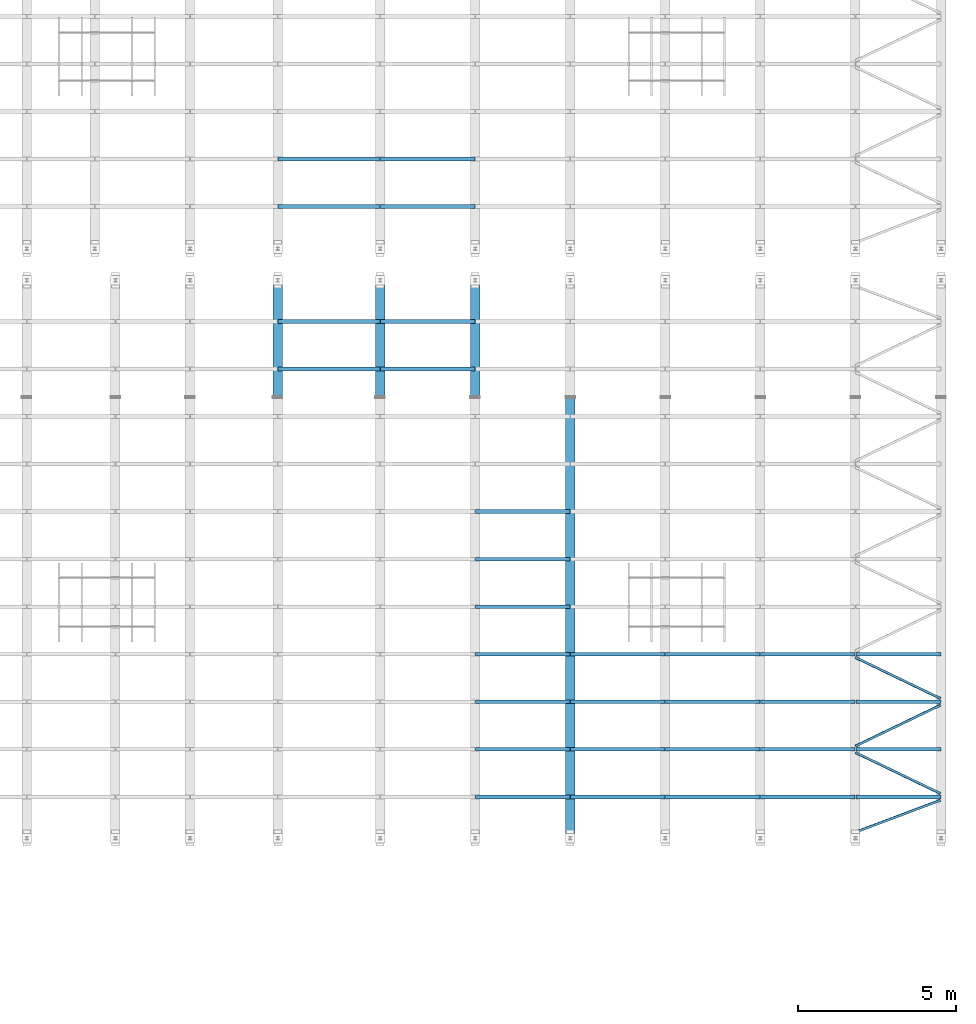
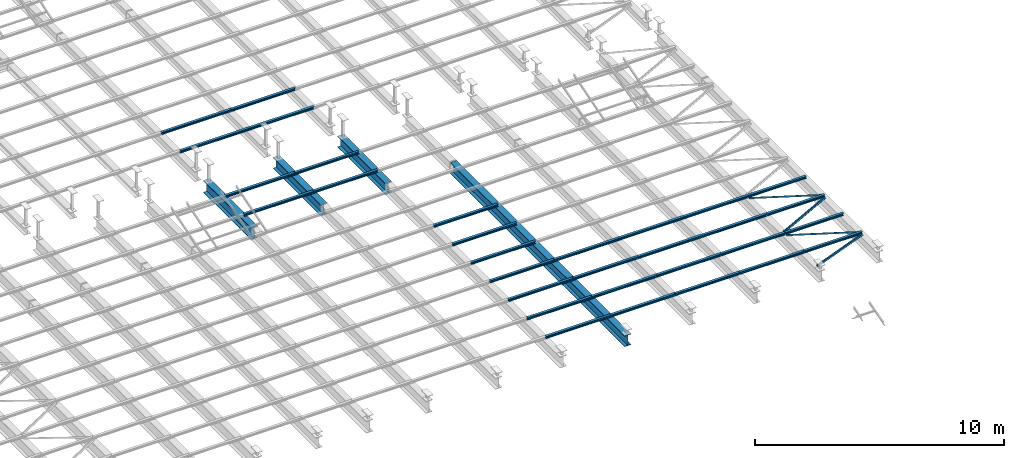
# One storey, part 75 of 139: 39 beams.
"""IFC2X3 building model written with IfcOpenShell, lengths in metres."""

from ifc_helpers import new_model, entity, si_unit, converted_unit, derived_unit, frame, origin, place, context, subcontext, project, spatial, polyline, outline, extrude, material, element, save


model = new_model("IFC2X3")

# Units and contexts
model_context = context("Model", 3, precision=1e-05, world=origin())
body_context = subcontext(model_context, "Body", "Model", "MODEL_VIEW")
ifc_project = project(units=[si_unit("LENGTHUNIT", "METRE"), si_unit("AREAUNIT", "SQUARE_METRE"), si_unit("VOLUMEUNIT", "CUBIC_METRE"), si_unit("MASSUNIT", "GRAM", prefix="KILO"), converted_unit("PLANEANGLEUNIT", "DEGREE", entity("IfcPlaneAngleMeasure", 0.0174532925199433), si_unit("PLANEANGLEUNIT", "RADIAN"), dimensions=[0, 0, 0, 0, 0, 0, 0]), derived_unit("THERMALTRANSMITTANCEUNIT", [(si_unit("POWERUNIT", "WATT"), 1), (si_unit("THERMODYNAMICTEMPERATUREUNIT", "KELVIN"), -1), (si_unit("LENGTHUNIT", "METRE"), -2)]), derived_unit("VOLUMETRICFLOWRATEUNIT", [(si_unit("LENGTHUNIT", "METRE"), 3), (converted_unit("TIMEUNIT", "hour", entity("IfcTimeMeasure", 3600.0), si_unit("TIMEUNIT", "SECOND"), dimensions=[0, 0, 1, 0, 0, 0, 0]), -1), (si_unit("LENGTHUNIT", "METRE"), -1)])], contexts=[model_context])

# Site, building, storey
site_placement = place(None, origin())
site = spatial("IfcSite", under=ifc_project, at=site_placement, Name="TWP_Speiseverteilzentrum SBW VZ II", CompositionType="ELEMENT")
building_placement = place(site_placement, origin())
building = spatial("IfcBuilding", under=site, at=building_placement, Name="Speiseverteilzentrum SBW VZ II", CompositionType="ELEMENT")
storey_placement = place(building_placement, frame((0.0, 0.0, 7.1307)))
storey = spatial("IfcBuildingStorey", under=building, at=storey_placement, Name="Wartung_FFB", CompositionType="ELEMENT", Elevation=7.1307)

# Beams
ifc_material_1 = material(Name="S235")
beam_1_placement = place(storey_placement, frame((103.050000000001, 70.0522526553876, -0.46), z_axis=(0.0, 0.0, 1.0), x_axis=(-1.0, 0.0, 0.0)))
element("IfcBeam", 1, at=beam_1_placement, inside=storey, material=ifc_material_1, Name="Stahlträger", context=body_context, shape_type="SweptSolid", body=[
    extrude(outline(polyline([(-0.15, 0.27), (-0.15, 0.246), (-0.0062499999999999, 0.246), (-0.00624999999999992, -0.246), (-0.15, -0.246), (-0.15, -0.27), (0.15, -0.27), (0.15, -0.246), (0.00625000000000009, -0.246), (0.00625000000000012, 0.246), (0.15, 0.246), (0.15, 0.27), (-0.15, 0.27)])), frame((0.0, 0.0, 0.0), z_axis=(0.0, 1.0, 0.0), x_axis=(-1.0, 0.0, 0.0)), (0.0, 0.0, 1.0), 3.81699999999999),
])
ifc_material_2 = material(Name="S235")
beam_2_placement = place(storey_placement, frame((106.050000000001, 70.0522526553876, -0.46), z_axis=(0.0, 0.0, 1.0), x_axis=(-1.0, 0.0, 0.0)))
element("IfcBeam", 2, at=beam_2_placement, inside=storey, material=ifc_material_2, Name="Stahlträger", context=body_context, shape_type="SweptSolid", body=[
    extrude(outline(polyline([(-0.15, 0.27), (-0.15, 0.246), (-0.0062499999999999, 0.246), (-0.00624999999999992, -0.246), (-0.15, -0.246), (-0.15, -0.27), (0.15, -0.27), (0.15, -0.246), (0.00625000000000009, -0.246), (0.00625000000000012, 0.246), (0.15, 0.246), (0.15, 0.27), (-0.15, 0.27)])), frame((0.0, 0.0, 0.0), z_axis=(0.0, 1.0, 0.0), x_axis=(-1.0, 0.0, 0.0)), (0.0, 0.0, 1.0), 3.81699999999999),
])
ifc_material_3 = material(Name="S235")
beam_3_placement = place(storey_placement, frame((99.8200000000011, 70.0522526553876, -0.485), z_axis=(0.0, 0.0, 1.0), x_axis=(-1.0, 0.0, 0.0)))
element("IfcBeam", 3, at=beam_3_placement, inside=storey, material=ifc_material_3, Name="Stahlträger", context=body_context, shape_type="SweptSolid", body=[
    extrude(outline(polyline([(-0.15, 0.295), (-0.15, 0.27), (-0.0065, 0.27), (-0.00650000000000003, -0.27), (-0.15, -0.27), (-0.15, -0.295), (0.15, -0.295), (0.15, -0.27), (0.00649999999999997, -0.27), (0.00650000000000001, 0.27), (0.15, 0.27), (0.15, 0.295), (-0.15, 0.295)])), frame((0.0, 0.0, 0.0), z_axis=(0.0, 1.0, 0.0), x_axis=(-1.0, 0.0, 0.0)), (0.0, 0.0, 1.0), 3.81699999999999),
])
ifc_material_4 = material(Name="S235")
beam_4_placement = place(storey_placement, frame((109.050000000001, 66.1852526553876, -0.46), z_axis=(0.0, 0.0, 1.0), x_axis=(-1.0, 0.0, 0.0)))
element("IfcBeam", 4, at=beam_4_placement, inside=storey, material=ifc_material_4, Name="Stahlträger", context=body_context, shape_type="SweptSolid", body=[
    extrude(outline(polyline([(-0.15, 0.27), (-0.15, 0.246), (-0.0062499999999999, 0.246), (-0.00624999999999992, -0.246), (-0.15, -0.246), (-0.15, -0.27), (0.15, -0.27), (0.15, -0.246), (0.00625000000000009, -0.246), (0.00625000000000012, 0.246), (0.15, 0.246), (0.15, 0.27), (-0.15, 0.27)])), frame((0.0, 0.0, 0.0), z_axis=(0.0, 1.0, 0.0), x_axis=(-1.0, 0.0, 0.0)), (0.0, 0.0, 1.0), 14.0352526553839),
])
ifc_material_5 = material(Name="S235")
beam_5_placement = place(storey_placement, frame((103.060000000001, 73.7261263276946, -0.133), z_axis=(0.0, 0.0, 1.0), x_axis=(0.0, -1.0, 0.0)))
element("IfcBeam", 5, at=beam_5_placement, inside=storey, material=ifc_material_5, Name="Nebenträger", context=body_context, shape_type="SweptSolid", body=[
    extrude(outline(polyline([(-0.06, 0.0570000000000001), (-0.06, 0.0490000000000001), (-0.00249999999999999, 0.0490000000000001), (-0.0025, -0.0489999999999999), (-0.06, -0.0489999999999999), (-0.06, -0.0569999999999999), (0.06, -0.0569999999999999), (0.06, -0.0489999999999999), (0.0025, -0.0489999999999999), (0.00250000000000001, 0.0490000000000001), (0.06, 0.0490000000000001), (0.06, 0.0570000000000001), (-0.06, 0.0570000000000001)])), frame((0.0, 0.0, 0.0), z_axis=(0.0, 1.0, 0.0), x_axis=(-1.0, 0.0, 0.0)), (0.0, 0.0, 1.0), 2.98),
])
ifc_material_6 = material(Name="S235")
beam_6_placement = place(storey_placement, frame((103.060000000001, 72.2261263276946, -0.133), z_axis=(0.0, 0.0, 1.0), x_axis=(0.0, -1.0, 0.0)))
element("IfcBeam", 6, at=beam_6_placement, inside=storey, material=ifc_material_6, Name="Nebenträger", context=body_context, shape_type="SweptSolid", body=[
    extrude(outline(polyline([(-0.06, 0.0570000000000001), (-0.06, 0.0490000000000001), (-0.00249999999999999, 0.0490000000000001), (-0.0025, -0.0489999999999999), (-0.06, -0.0489999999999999), (-0.06, -0.0569999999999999), (0.06, -0.0569999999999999), (0.06, -0.0489999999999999), (0.0025, -0.0489999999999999), (0.00250000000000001, 0.0490000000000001), (0.06, 0.0490000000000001), (0.06, 0.0570000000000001), (-0.06, 0.0570000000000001)])), frame((0.0, 0.0, 0.0), z_axis=(0.0, 1.0, 0.0), x_axis=(-1.0, 0.0, 0.0)), (0.0, 0.0, 1.0), 2.98),
])
ifc_material_7 = material(Name="S235")
beam_7_placement = place(storey_placement, frame((103.060000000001, 68.6011263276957, -0.133), z_axis=(0.0, 0.0, 1.0), x_axis=(0.0, -1.0, 0.0)))
element("IfcBeam", 7, at=beam_7_placement, inside=storey, material=ifc_material_7, Name="Nebenträger", context=body_context, shape_type="SweptSolid", body=[
    extrude(outline(polyline([(-0.06, 0.0570000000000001), (-0.06, 0.0490000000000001), (-0.00249999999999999, 0.0490000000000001), (-0.0025, -0.0489999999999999), (-0.06, -0.0489999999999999), (-0.06, -0.0569999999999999), (0.06, -0.0569999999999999), (0.06, -0.0489999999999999), (0.0025, -0.0489999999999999), (0.00250000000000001, 0.0490000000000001), (0.06, 0.0490000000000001), (0.06, 0.0570000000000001), (-0.06, 0.0570000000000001)])), frame((0.0, 0.0, 0.0), z_axis=(0.0, 1.0, 0.0), x_axis=(-1.0, 0.0, 0.0)), (0.0, 0.0, 1.0), 2.98),
])
ifc_material_8 = material(Name="S235")
beam_8_placement = place(storey_placement, frame((103.060000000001, 67.1011263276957, -0.133), z_axis=(0.0, 0.0, 1.0), x_axis=(0.0, -1.0, 0.0)))
element("IfcBeam", 8, at=beam_8_placement, inside=storey, material=ifc_material_8, Name="Nebenträger", context=body_context, shape_type="SweptSolid", body=[
    extrude(outline(polyline([(-0.06, 0.0570000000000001), (-0.06, 0.0490000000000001), (-0.00249999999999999, 0.0490000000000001), (-0.0025, -0.0489999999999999), (-0.06, -0.0489999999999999), (-0.06, -0.0569999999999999), (0.06, -0.0569999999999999), (0.06, -0.0489999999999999), (0.0025, -0.0489999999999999), (0.00250000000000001, 0.0490000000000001), (0.06, 0.0490000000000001), (0.06, 0.0570000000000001), (-0.06, 0.0570000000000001)])), frame((0.0, 0.0, 0.0), z_axis=(0.0, 1.0, 0.0), x_axis=(-1.0, 0.0, 0.0)), (0.0, 0.0, 1.0), 2.98),
])
ifc_material_9 = material(Name="S235")
beam_9_placement = place(storey_placement, frame((106.060000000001, 62.6011263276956, -0.133), z_axis=(0.0, 0.0, 1.0), x_axis=(0.0, -1.0, 0.0)))
element("IfcBeam", 9, at=beam_9_placement, inside=storey, material=ifc_material_9, Name="Nebenträger", context=body_context, shape_type="SweptSolid", body=[
    extrude(outline(polyline([(-0.06, 0.0570000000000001), (-0.06, 0.0490000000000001), (-0.00249999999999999, 0.0490000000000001), (-0.0025, -0.0489999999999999), (-0.06, -0.0489999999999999), (-0.06, -0.0569999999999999), (0.06, -0.0569999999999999), (0.06, -0.0489999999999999), (0.0025, -0.0489999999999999), (0.00250000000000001, 0.0490000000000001), (0.06, 0.0490000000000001), (0.06, 0.0570000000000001), (-0.06, 0.0570000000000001)])), frame((0.0, 0.0, 0.0), z_axis=(0.0, 1.0, 0.0), x_axis=(-1.0, 0.0, 0.0)), (0.0, 0.0, 1.0), 2.98),
])
ifc_material_10 = material(Name="S235")
beam_10_placement = place(storey_placement, frame((106.060000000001, 61.1011263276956, -0.133), z_axis=(0.0, 0.0, 1.0), x_axis=(0.0, -1.0, 0.0)))
element("IfcBeam", 10, at=beam_10_placement, inside=storey, material=ifc_material_10, Name="Nebenträger", context=body_context, shape_type="SweptSolid", body=[
    extrude(outline(polyline([(-0.06, 0.0570000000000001), (-0.06, 0.0490000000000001), (-0.00249999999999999, 0.0490000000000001), (-0.0025, -0.0489999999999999), (-0.06, -0.0489999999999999), (-0.06, -0.0569999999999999), (0.06, -0.0569999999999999), (0.06, -0.0489999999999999), (0.0025, -0.0489999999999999), (0.00250000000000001, 0.0490000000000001), (0.06, 0.0490000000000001), (0.06, 0.0570000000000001), (-0.06, 0.0570000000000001)])), frame((0.0, 0.0, 0.0), z_axis=(0.0, 1.0, 0.0), x_axis=(-1.0, 0.0, 0.0)), (0.0, 0.0, 1.0), 2.98),
])
ifc_material_11 = material(Name="S235")
beam_11_placement = place(storey_placement, frame((106.060000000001, 59.6011263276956, -0.133), z_axis=(0.0, 0.0, 1.0), x_axis=(0.0, -1.0, 0.0)))
element("IfcBeam", 11, at=beam_11_placement, inside=storey, material=ifc_material_11, Name="Nebenträger", context=body_context, shape_type="SweptSolid", body=[
    extrude(outline(polyline([(-0.06, 0.0570000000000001), (-0.06, 0.0490000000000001), (-0.00249999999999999, 0.0490000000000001), (-0.0025, -0.0489999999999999), (-0.06, -0.0489999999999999), (-0.06, -0.0569999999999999), (0.06, -0.0569999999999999), (0.06, -0.0489999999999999), (0.0025, -0.0489999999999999), (0.00250000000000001, 0.0490000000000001), (0.06, 0.0490000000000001), (0.06, 0.0570000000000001), (-0.06, 0.0570000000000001)])), frame((0.0, 0.0, 0.0), z_axis=(0.0, 1.0, 0.0), x_axis=(-1.0, 0.0, 0.0)), (0.0, 0.0, 1.0), 2.98),
])
ifc_material_12 = material(Name="S235")
beam_12_placement = place(storey_placement, frame((106.060000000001, 58.1011263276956, -0.133), z_axis=(0.0, 0.0, 1.0), x_axis=(0.0, -1.0, 0.0)))
element("IfcBeam", 12, at=beam_12_placement, inside=storey, material=ifc_material_12, Name="Nebenträger", context=body_context, shape_type="SweptSolid", body=[
    extrude(outline(polyline([(-0.06, 0.0570000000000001), (-0.06, 0.0490000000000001), (-0.00249999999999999, 0.0490000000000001), (-0.0025, -0.0489999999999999), (-0.06, -0.0489999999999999), (-0.06, -0.0569999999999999), (0.06, -0.0569999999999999), (0.06, -0.0489999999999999), (0.0025, -0.0489999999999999), (0.00250000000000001, 0.0490000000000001), (0.06, 0.0490000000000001), (0.06, 0.0570000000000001), (-0.06, 0.0570000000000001)])), frame((0.0, 0.0, 0.0), z_axis=(0.0, 1.0, 0.0), x_axis=(-1.0, 0.0, 0.0)), (0.0, 0.0, 1.0), 2.98),
])
ifc_material_13 = material(Name="S235")
beam_13_placement = place(storey_placement, frame((109.060000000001, 58.1011263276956, -0.133), z_axis=(0.0, 0.0, 1.0), x_axis=(0.0, -1.0, 0.0)))
element("IfcBeam", 13, at=beam_13_placement, inside=storey, material=ifc_material_13, Name="Nebenträger", context=body_context, shape_type="SweptSolid", body=[
    extrude(outline(polyline([(-0.06, 0.0570000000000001), (-0.06, 0.0490000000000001), (-0.00249999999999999, 0.0490000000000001), (-0.0025, -0.0489999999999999), (-0.06, -0.0489999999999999), (-0.06, -0.0569999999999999), (0.06, -0.0569999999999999), (0.06, -0.0489999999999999), (0.0025, -0.0489999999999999), (0.00250000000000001, 0.0490000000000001), (0.06, 0.0490000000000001), (0.06, 0.0570000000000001), (-0.06, 0.0570000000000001)])), frame((0.0, 0.0, 0.0), z_axis=(0.0, 1.0, 0.0), x_axis=(-1.0, 0.0, 0.0)), (0.0, 0.0, 1.0), 2.98),
])
ifc_material_14 = material(Name="S235")
beam_14_placement = place(storey_placement, frame((112.060000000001, 58.1011263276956, -0.133), z_axis=(0.0, 0.0, 1.0), x_axis=(0.0, -1.0, 0.0)))
element("IfcBeam", 14, at=beam_14_placement, inside=storey, material=ifc_material_14, Name="Nebenträger", context=body_context, shape_type="SweptSolid", body=[
    extrude(outline(polyline([(-0.06, 0.0570000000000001), (-0.06, 0.0490000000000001), (-0.00249999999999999, 0.0490000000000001), (-0.0025, -0.0489999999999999), (-0.06, -0.0489999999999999), (-0.06, -0.0569999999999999), (0.06, -0.0569999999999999), (0.06, -0.0489999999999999), (0.0025, -0.0489999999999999), (0.00250000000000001, 0.0490000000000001), (0.06, 0.0490000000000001), (0.06, 0.0570000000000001), (-0.06, 0.0570000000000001)])), frame((0.0, 0.0, 0.0), z_axis=(0.0, 1.0, 0.0), x_axis=(-1.0, 0.0, 0.0)), (0.0, 0.0, 1.0), 2.98),
])
ifc_material_15 = material(Name="S235")
beam_15_placement = place(storey_placement, frame((115.060000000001, 58.1011263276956, -0.133), z_axis=(0.0, 0.0, 1.0), x_axis=(0.0, -1.0, 0.0)))
element("IfcBeam", 15, at=beam_15_placement, inside=storey, material=ifc_material_15, Name="Nebenträger", context=body_context, shape_type="SweptSolid", body=[
    extrude(outline(polyline([(-0.06, 0.0570000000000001), (-0.06, 0.0490000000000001), (-0.00249999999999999, 0.0490000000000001), (-0.0025, -0.0489999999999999), (-0.06, -0.0489999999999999), (-0.06, -0.0569999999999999), (0.06, -0.0569999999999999), (0.06, -0.0489999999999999), (0.0025, -0.0489999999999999), (0.00250000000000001, 0.0490000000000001), (0.06, 0.0490000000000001), (0.06, 0.0570000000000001), (-0.06, 0.0570000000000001)])), frame((0.0, 0.0, 0.0), z_axis=(0.0, 1.0, 0.0), x_axis=(-1.0, 0.0, 0.0)), (0.0, 0.0, 1.0), 2.98),
])
ifc_material_16 = material(Name="S235")
beam_16_placement = place(storey_placement, frame((106.060000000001, 56.6011263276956, -0.133), z_axis=(0.0, 0.0, 1.0), x_axis=(0.0, -1.0, 0.0)))
element("IfcBeam", 16, at=beam_16_placement, inside=storey, material=ifc_material_16, Name="Nebenträger", context=body_context, shape_type="SweptSolid", body=[
    extrude(outline(polyline([(-0.06, 0.0570000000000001), (-0.06, 0.0490000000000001), (-0.00249999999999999, 0.0490000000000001), (-0.0025, -0.0489999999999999), (-0.06, -0.0489999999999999), (-0.06, -0.0569999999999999), (0.06, -0.0569999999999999), (0.06, -0.0489999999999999), (0.0025, -0.0489999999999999), (0.00250000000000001, 0.0490000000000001), (0.06, 0.0490000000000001), (0.06, 0.0570000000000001), (-0.06, 0.0570000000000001)])), frame((0.0, 0.0, 0.0), z_axis=(0.0, 1.0, 0.0), x_axis=(-1.0, 0.0, 0.0)), (0.0, 0.0, 1.0), 2.98),
])
ifc_material_17 = material(Name="S235")
beam_17_placement = place(storey_placement, frame((109.060000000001, 56.6011263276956, -0.133), z_axis=(0.0, 0.0, 1.0), x_axis=(0.0, -1.0, 0.0)))
element("IfcBeam", 17, at=beam_17_placement, inside=storey, material=ifc_material_17, Name="Nebenträger", context=body_context, shape_type="SweptSolid", body=[
    extrude(outline(polyline([(-0.06, 0.0570000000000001), (-0.06, 0.0490000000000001), (-0.00249999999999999, 0.0490000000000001), (-0.0025, -0.0489999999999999), (-0.06, -0.0489999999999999), (-0.06, -0.0569999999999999), (0.06, -0.0569999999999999), (0.06, -0.0489999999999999), (0.0025, -0.0489999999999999), (0.00250000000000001, 0.0490000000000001), (0.06, 0.0490000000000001), (0.06, 0.0570000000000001), (-0.06, 0.0570000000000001)])), frame((0.0, 0.0, 0.0), z_axis=(0.0, 1.0, 0.0), x_axis=(-1.0, 0.0, 0.0)), (0.0, 0.0, 1.0), 2.98),
])
ifc_material_18 = material(Name="S235")
beam_18_placement = place(storey_placement, frame((112.060000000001, 56.6011263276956, -0.133), z_axis=(0.0, 0.0, 1.0), x_axis=(0.0, -1.0, 0.0)))
element("IfcBeam", 18, at=beam_18_placement, inside=storey, material=ifc_material_18, Name="Nebenträger", context=body_context, shape_type="SweptSolid", body=[
    extrude(outline(polyline([(-0.06, 0.0570000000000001), (-0.06, 0.0490000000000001), (-0.00249999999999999, 0.0490000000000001), (-0.0025, -0.0489999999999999), (-0.06, -0.0489999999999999), (-0.06, -0.0569999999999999), (0.06, -0.0569999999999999), (0.06, -0.0489999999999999), (0.0025, -0.0489999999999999), (0.00250000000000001, 0.0490000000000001), (0.06, 0.0490000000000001), (0.06, 0.0570000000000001), (-0.06, 0.0570000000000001)])), frame((0.0, 0.0, 0.0), z_axis=(0.0, 1.0, 0.0), x_axis=(-1.0, 0.0, 0.0)), (0.0, 0.0, 1.0), 2.98),
])
ifc_material_19 = material(Name="S235")
beam_19_placement = place(storey_placement, frame((115.060000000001, 56.6011263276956, -0.133), z_axis=(0.0, 0.0, 1.0), x_axis=(0.0, -1.0, 0.0)))
element("IfcBeam", 19, at=beam_19_placement, inside=storey, material=ifc_material_19, Name="Nebenträger", context=body_context, shape_type="SweptSolid", body=[
    extrude(outline(polyline([(-0.06, 0.0570000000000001), (-0.06, 0.0490000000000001), (-0.00249999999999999, 0.0490000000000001), (-0.0025, -0.0489999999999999), (-0.06, -0.0489999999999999), (-0.06, -0.0569999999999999), (0.06, -0.0569999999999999), (0.06, -0.0489999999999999), (0.0025, -0.0489999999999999), (0.00250000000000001, 0.0490000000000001), (0.06, 0.0490000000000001), (0.06, 0.0570000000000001), (-0.06, 0.0570000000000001)])), frame((0.0, 0.0, 0.0), z_axis=(0.0, 1.0, 0.0), x_axis=(-1.0, 0.0, 0.0)), (0.0, 0.0, 1.0), 2.98),
])
ifc_material_20 = material(Name="S235")
beam_20_placement = place(storey_placement, frame((106.060000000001, 55.1011263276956, -0.133), z_axis=(0.0, 0.0, 1.0), x_axis=(0.0, -1.0, 0.0)))
element("IfcBeam", 20, at=beam_20_placement, inside=storey, material=ifc_material_20, Name="Nebenträger", context=body_context, shape_type="SweptSolid", body=[
    extrude(outline(polyline([(-0.06, 0.0570000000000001), (-0.06, 0.0490000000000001), (-0.00249999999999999, 0.0490000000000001), (-0.0025, -0.0489999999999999), (-0.06, -0.0489999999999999), (-0.06, -0.0569999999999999), (0.06, -0.0569999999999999), (0.06, -0.0489999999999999), (0.0025, -0.0489999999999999), (0.00250000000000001, 0.0490000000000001), (0.06, 0.0490000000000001), (0.06, 0.0570000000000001), (-0.06, 0.0570000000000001)])), frame((0.0, 0.0, 0.0), z_axis=(0.0, 1.0, 0.0), x_axis=(-1.0, 0.0, 0.0)), (0.0, 0.0, 1.0), 2.98),
])
ifc_material_21 = material(Name="S235")
beam_21_placement = place(storey_placement, frame((109.060000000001, 55.1011263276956, -0.133), z_axis=(0.0, 0.0, 1.0), x_axis=(0.0, -1.0, 0.0)))
element("IfcBeam", 21, at=beam_21_placement, inside=storey, material=ifc_material_21, Name="Nebenträger", context=body_context, shape_type="SweptSolid", body=[
    extrude(outline(polyline([(-0.06, 0.0570000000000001), (-0.06, 0.0490000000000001), (-0.00249999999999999, 0.0490000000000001), (-0.0025, -0.0489999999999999), (-0.06, -0.0489999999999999), (-0.06, -0.0569999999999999), (0.06, -0.0569999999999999), (0.06, -0.0489999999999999), (0.0025, -0.0489999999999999), (0.00250000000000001, 0.0490000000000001), (0.06, 0.0490000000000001), (0.06, 0.0570000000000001), (-0.06, 0.0570000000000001)])), frame((0.0, 0.0, 0.0), z_axis=(0.0, 1.0, 0.0), x_axis=(-1.0, 0.0, 0.0)), (0.0, 0.0, 1.0), 2.98),
])
ifc_material_22 = material(Name="S235")
beam_22_placement = place(storey_placement, frame((112.060000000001, 55.1011263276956, -0.133), z_axis=(0.0, 0.0, 1.0), x_axis=(0.0, -1.0, 0.0)))
element("IfcBeam", 22, at=beam_22_placement, inside=storey, material=ifc_material_22, Name="Nebenträger", context=body_context, shape_type="SweptSolid", body=[
    extrude(outline(polyline([(-0.06, 0.0570000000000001), (-0.06, 0.0490000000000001), (-0.00249999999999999, 0.0490000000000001), (-0.0025, -0.0489999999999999), (-0.06, -0.0489999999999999), (-0.06, -0.0569999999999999), (0.06, -0.0569999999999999), (0.06, -0.0489999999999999), (0.0025, -0.0489999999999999), (0.00250000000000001, 0.0490000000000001), (0.06, 0.0490000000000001), (0.06, 0.0570000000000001), (-0.06, 0.0570000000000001)])), frame((0.0, 0.0, 0.0), z_axis=(0.0, 1.0, 0.0), x_axis=(-1.0, 0.0, 0.0)), (0.0, 0.0, 1.0), 2.98),
])
ifc_material_23 = material(Name="S235")
beam_23_placement = place(storey_placement, frame((115.060000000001, 55.1011263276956, -0.133), z_axis=(0.0, 0.0, 1.0), x_axis=(0.0, -1.0, 0.0)))
element("IfcBeam", 23, at=beam_23_placement, inside=storey, material=ifc_material_23, Name="Nebenträger", context=body_context, shape_type="SweptSolid", body=[
    extrude(outline(polyline([(-0.06, 0.0570000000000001), (-0.06, 0.0490000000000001), (-0.00249999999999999, 0.0490000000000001), (-0.0025, -0.0489999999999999), (-0.06, -0.0489999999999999), (-0.06, -0.0569999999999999), (0.06, -0.0569999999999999), (0.06, -0.0489999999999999), (0.0025, -0.0489999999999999), (0.00250000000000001, 0.0490000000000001), (0.06, 0.0490000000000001), (0.06, 0.0570000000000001), (-0.06, 0.0570000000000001)])), frame((0.0, 0.0, 0.0), z_axis=(0.0, 1.0, 0.0), x_axis=(-1.0, 0.0, 0.0)), (0.0, 0.0, 1.0), 2.98),
])
ifc_material_24 = material(Name="S235")
beam_24_placement = place(storey_placement, frame((106.060000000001, 53.6011263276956, -0.133), z_axis=(0.0, 0.0, 1.0), x_axis=(0.0, -1.0, 0.0)))
element("IfcBeam", 24, at=beam_24_placement, inside=storey, material=ifc_material_24, Name="Nebenträger", context=body_context, shape_type="SweptSolid", body=[
    extrude(outline(polyline([(-0.06, 0.0570000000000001), (-0.06, 0.0490000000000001), (-0.00249999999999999, 0.0490000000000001), (-0.0025, -0.0489999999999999), (-0.06, -0.0489999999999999), (-0.06, -0.0569999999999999), (0.06, -0.0569999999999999), (0.06, -0.0489999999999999), (0.0025, -0.0489999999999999), (0.00250000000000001, 0.0490000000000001), (0.06, 0.0490000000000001), (0.06, 0.0570000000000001), (-0.06, 0.0570000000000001)])), frame((0.0, 0.0, 0.0), z_axis=(0.0, 1.0, 0.0), x_axis=(-1.0, 0.0, 0.0)), (0.0, 0.0, 1.0), 2.98),
])
ifc_material_25 = material(Name="S235")
beam_25_placement = place(storey_placement, frame((109.060000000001, 53.6011263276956, -0.133), z_axis=(0.0, 0.0, 1.0), x_axis=(0.0, -1.0, 0.0)))
element("IfcBeam", 25, at=beam_25_placement, inside=storey, material=ifc_material_25, Name="Nebenträger", context=body_context, shape_type="SweptSolid", body=[
    extrude(outline(polyline([(-0.06, 0.0570000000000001), (-0.06, 0.0490000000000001), (-0.00249999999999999, 0.0490000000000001), (-0.0025, -0.0489999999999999), (-0.06, -0.0489999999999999), (-0.06, -0.0569999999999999), (0.06, -0.0569999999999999), (0.06, -0.0489999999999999), (0.0025, -0.0489999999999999), (0.00250000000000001, 0.0490000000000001), (0.06, 0.0490000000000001), (0.06, 0.0570000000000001), (-0.06, 0.0570000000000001)])), frame((0.0, 0.0, 0.0), z_axis=(0.0, 1.0, 0.0), x_axis=(-1.0, 0.0, 0.0)), (0.0, 0.0, 1.0), 2.98),
])
ifc_material_26 = material(Name="S235")
beam_26_placement = place(storey_placement, frame((112.060000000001, 53.6011263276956, -0.133), z_axis=(0.0, 0.0, 1.0), x_axis=(0.0, -1.0, 0.0)))
element("IfcBeam", 26, at=beam_26_placement, inside=storey, material=ifc_material_26, Name="Nebenträger", context=body_context, shape_type="SweptSolid", body=[
    extrude(outline(polyline([(-0.06, 0.0570000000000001), (-0.06, 0.0490000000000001), (-0.00249999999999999, 0.0490000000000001), (-0.0025, -0.0489999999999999), (-0.06, -0.0489999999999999), (-0.06, -0.0569999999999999), (0.06, -0.0569999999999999), (0.06, -0.0489999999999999), (0.0025, -0.0489999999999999), (0.00250000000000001, 0.0490000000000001), (0.06, 0.0490000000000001), (0.06, 0.0570000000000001), (-0.06, 0.0570000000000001)])), frame((0.0, 0.0, 0.0), z_axis=(0.0, 1.0, 0.0), x_axis=(-1.0, 0.0, 0.0)), (0.0, 0.0, 1.0), 2.98),
])
ifc_material_27 = material(Name="S235")
beam_27_placement = place(storey_placement, frame((115.060000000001, 53.6011263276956, -0.133), z_axis=(0.0, 0.0, 1.0), x_axis=(0.0, -1.0, 0.0)))
element("IfcBeam", 27, at=beam_27_placement, inside=storey, material=ifc_material_27, Name="Nebenträger", context=body_context, shape_type="SweptSolid", body=[
    extrude(outline(polyline([(-0.06, 0.0570000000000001), (-0.06, 0.0490000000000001), (-0.00249999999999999, 0.0490000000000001), (-0.0025, -0.0489999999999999), (-0.06, -0.0489999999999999), (-0.06, -0.0569999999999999), (0.06, -0.0569999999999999), (0.06, -0.0489999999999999), (0.0025, -0.0489999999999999), (0.00250000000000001, 0.0490000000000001), (0.06, 0.0490000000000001), (0.06, 0.0570000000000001), (-0.06, 0.0570000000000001)])), frame((0.0, 0.0, 0.0), z_axis=(0.0, 1.0, 0.0), x_axis=(-1.0, 0.0, 0.0)), (0.0, 0.0, 1.0), 2.98),
])
ifc_material_28 = material(Name="S235")
beam_28_placement = place(storey_placement, frame((118.060000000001, 58.1011263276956, -0.133), z_axis=(0.0, 0.0, 1.0), x_axis=(0.0, -1.0, 0.0)))
element("IfcBeam", 28, at=beam_28_placement, inside=storey, material=ifc_material_28, Name="Nebenträger", context=body_context, shape_type="SweptSolid", body=[
    extrude(outline(polyline([(-0.06, 0.0570000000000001), (-0.06, 0.0490000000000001), (-0.00249999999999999, 0.0490000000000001), (-0.0025, -0.0489999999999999), (-0.06, -0.0489999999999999), (-0.06, -0.0569999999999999), (0.06, -0.0569999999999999), (0.06, -0.0489999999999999), (0.0025, -0.0489999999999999), (0.00250000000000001, 0.0490000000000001), (0.06, 0.0490000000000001), (0.06, 0.0570000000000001), (-0.06, 0.0570000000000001)])), frame((0.0, 0.0, 0.0), z_axis=(0.0, 1.0, 0.0), x_axis=(-1.0, 0.0, 0.0)), (0.0, 0.0, 1.0), 2.69),
])
ifc_material_29 = material(Name="S235")
beam_29_placement = place(storey_placement, frame((118.060000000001, 56.6011263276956, -0.133), z_axis=(0.0, 0.0, 1.0), x_axis=(0.0, -1.0, 0.0)))
element("IfcBeam", 29, at=beam_29_placement, inside=storey, material=ifc_material_29, Name="Nebenträger", context=body_context, shape_type="SweptSolid", body=[
    extrude(outline(polyline([(-0.06, 0.0570000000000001), (-0.06, 0.0490000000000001), (-0.00249999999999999, 0.0490000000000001), (-0.0025, -0.0489999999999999), (-0.06, -0.0489999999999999), (-0.06, -0.0569999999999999), (0.06, -0.0569999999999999), (0.06, -0.0489999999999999), (0.0025, -0.0489999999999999), (0.00250000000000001, 0.0490000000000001), (0.06, 0.0490000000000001), (0.06, 0.0570000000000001), (-0.06, 0.0570000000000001)])), frame((0.0, 0.0, 0.0), z_axis=(0.0, 1.0, 0.0), x_axis=(-1.0, 0.0, 0.0)), (0.0, 0.0, 1.0), 2.69),
])
ifc_material_30 = material(Name="S235")
beam_30_placement = place(storey_placement, frame((118.060000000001, 55.1011263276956, -0.133), z_axis=(0.0, 0.0, 1.0), x_axis=(0.0, -1.0, 0.0)))
element("IfcBeam", 30, at=beam_30_placement, inside=storey, material=ifc_material_30, Name="Nebenträger", context=body_context, shape_type="SweptSolid", body=[
    extrude(outline(polyline([(-0.06, 0.0570000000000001), (-0.06, 0.0490000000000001), (-0.00249999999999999, 0.0490000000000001), (-0.0025, -0.0489999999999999), (-0.06, -0.0489999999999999), (-0.06, -0.0569999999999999), (0.06, -0.0569999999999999), (0.06, -0.0489999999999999), (0.0025, -0.0489999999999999), (0.00250000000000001, 0.0490000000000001), (0.06, 0.0490000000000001), (0.06, 0.0570000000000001), (-0.06, 0.0570000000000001)])), frame((0.0, 0.0, 0.0), z_axis=(0.0, 1.0, 0.0), x_axis=(-1.0, 0.0, 0.0)), (0.0, 0.0, 1.0), 2.69),
])
ifc_material_31 = material(Name="S235")
beam_31_placement = place(storey_placement, frame((118.060000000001, 53.6011263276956, -0.133), z_axis=(0.0, 0.0, 1.0), x_axis=(0.0, -1.0, 0.0)))
element("IfcBeam", 31, at=beam_31_placement, inside=storey, material=ifc_material_31, Name="Nebenträger", context=body_context, shape_type="SweptSolid", body=[
    extrude(outline(polyline([(-0.06, 0.0570000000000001), (-0.06, 0.0490000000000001), (-0.00249999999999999, 0.0490000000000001), (-0.0025, -0.0489999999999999), (-0.06, -0.0489999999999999), (-0.06, -0.0569999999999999), (0.06, -0.0569999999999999), (0.06, -0.0489999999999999), (0.0025, -0.0489999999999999), (0.00250000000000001, 0.0490000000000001), (0.06, 0.0490000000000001), (0.06, 0.0570000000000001), (-0.06, 0.0570000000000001)])), frame((0.0, 0.0, 0.0), z_axis=(0.0, 1.0, 0.0), x_axis=(-1.0, 0.0, 0.0)), (0.0, 0.0, 1.0), 2.69),
])
ifc_material_32 = material(Name="S235")
beam_32_placement = place(storey_placement, frame((99.8300000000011, 73.7261263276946, -0.133), z_axis=(0.0, 0.0, 1.0), x_axis=(0.0, -1.0, 0.0)))
element("IfcBeam", 32, at=beam_32_placement, inside=storey, material=ifc_material_32, Name="Nebenträger", context=body_context, shape_type="SweptSolid", body=[
    extrude(outline(polyline([(-0.06, 0.0570000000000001), (-0.06, 0.0490000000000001), (-0.00249999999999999, 0.0490000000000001), (-0.0025, -0.0489999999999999), (-0.06, -0.0489999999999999), (-0.06, -0.0569999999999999), (0.06, -0.0569999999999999), (0.06, -0.0489999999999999), (0.0025, -0.0489999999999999), (0.00250000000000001, 0.0490000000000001), (0.06, 0.0490000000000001), (0.06, 0.0570000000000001), (-0.06, 0.0570000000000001)])), frame((0.0, 0.0, 0.0), z_axis=(0.0, 1.0, 0.0), x_axis=(-1.0, 0.0, 0.0)), (0.0, 0.0, 1.0), 3.21),
])
ifc_material_33 = material(Name="S235")
beam_33_placement = place(storey_placement, frame((99.8300000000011, 72.2261263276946, -0.133), z_axis=(0.0, 0.0, 1.0), x_axis=(0.0, -1.0, 0.0)))
element("IfcBeam", 33, at=beam_33_placement, inside=storey, material=ifc_material_33, Name="Nebenträger", context=body_context, shape_type="SweptSolid", body=[
    extrude(outline(polyline([(-0.06, 0.0570000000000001), (-0.06, 0.0490000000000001), (-0.00249999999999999, 0.0490000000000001), (-0.0025, -0.0489999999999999), (-0.06, -0.0489999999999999), (-0.06, -0.0569999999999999), (0.06, -0.0569999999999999), (0.06, -0.0489999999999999), (0.0025, -0.0489999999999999), (0.00250000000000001, 0.0490000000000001), (0.06, 0.0490000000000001), (0.06, 0.0570000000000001), (-0.06, 0.0570000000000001)])), frame((0.0, 0.0, 0.0), z_axis=(0.0, 1.0, 0.0), x_axis=(-1.0, 0.0, 0.0)), (0.0, 0.0, 1.0), 3.21),
])
ifc_material_34 = material(Name="S235")
beam_34_placement = place(storey_placement, frame((99.8300000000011, 68.6011263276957, -0.133), z_axis=(0.0, 0.0, 1.0), x_axis=(0.0, -1.0, 0.0)))
element("IfcBeam", 34, at=beam_34_placement, inside=storey, material=ifc_material_34, Name="Nebenträger", context=body_context, shape_type="SweptSolid", body=[
    extrude(outline(polyline([(-0.06, 0.0570000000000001), (-0.06, 0.0490000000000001), (-0.00249999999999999, 0.0490000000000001), (-0.0025, -0.0489999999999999), (-0.06, -0.0489999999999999), (-0.06, -0.0569999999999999), (0.06, -0.0569999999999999), (0.06, -0.0489999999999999), (0.0025, -0.0489999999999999), (0.00250000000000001, 0.0490000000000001), (0.06, 0.0490000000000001), (0.06, 0.0570000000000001), (-0.06, 0.0570000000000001)])), frame((0.0, 0.0, 0.0), z_axis=(0.0, 1.0, 0.0), x_axis=(-1.0, 0.0, 0.0)), (0.0, 0.0, 1.0), 3.21),
])
ifc_material_35 = material(Name="S235")
beam_35_placement = place(storey_placement, frame((99.8300000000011, 67.1011263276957, -0.133), z_axis=(0.0, 0.0, 1.0), x_axis=(0.0, -1.0, 0.0)))
element("IfcBeam", 35, at=beam_35_placement, inside=storey, material=ifc_material_35, Name="Nebenträger", context=body_context, shape_type="SweptSolid", body=[
    extrude(outline(polyline([(-0.06, 0.0570000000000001), (-0.06, 0.0490000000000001), (-0.00249999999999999, 0.0490000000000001), (-0.0025, -0.0489999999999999), (-0.06, -0.0489999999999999), (-0.06, -0.0569999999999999), (0.06, -0.0569999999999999), (0.06, -0.0489999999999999), (0.0025, -0.0489999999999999), (0.00250000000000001, 0.0490000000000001), (0.06, 0.0490000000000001), (0.06, 0.0570000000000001), (-0.06, 0.0570000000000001)])), frame((0.0, 0.0, 0.0), z_axis=(0.0, 1.0, 0.0), x_axis=(-1.0, 0.0, 0.0)), (0.0, 0.0, 1.0), 3.21),
])
ifc_material_36 = material(Name="S235")
beam_36_placement = place(storey_placement, frame((118.038542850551, 57.98371288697, -0.167052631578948), z_axis=(0.0, 0.0, 1.0), x_axis=(-0.434138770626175, -0.900846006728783, 0.0)))
element("IfcBeam", 36, at=beam_36_placement, inside=storey, material=ifc_material_36, Name="Kreuzverband", context=body_context, shape_type="SweptSolid", body=[
    extrude(outline(polyline([(0.0570526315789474, -0.0229473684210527), (0.0570526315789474, -0.0149473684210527), (-0.0149473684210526, -0.0149473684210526), (-0.0149473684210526, 0.0570526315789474), (-0.0229473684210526, 0.0570526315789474), (-0.0229473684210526, -0.0229473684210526), (0.0570526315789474, -0.0229473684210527)])), frame((0.0, 0.0, 0.0), z_axis=(0.0, 1.0, 0.0), x_axis=(-1.0, 0.0, 0.0)), (0.0, 0.0, 1.0), 2.9821961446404),
])
ifc_material_37 = material(Name="S235")
beam_37_placement = place(storey_placement, frame((118.038542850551, 55.2185397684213, -0.167052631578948), z_axis=(0.0, 0.0, 1.0), x_axis=(0.434138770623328, -0.900846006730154, 0.0)))
element("IfcBeam", 37, at=beam_37_placement, inside=storey, material=ifc_material_37, Name="Kreuzverband", context=body_context, shape_type="SweptSolid", body=[
    extrude(outline(polyline([(0.0229473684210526, -0.0229473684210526), (0.0229473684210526, 0.0570526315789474), (0.0149473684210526, 0.0570526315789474), (0.0149473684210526, -0.0149473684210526), (-0.0570526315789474, -0.0149473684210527), (-0.0570526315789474, -0.0229473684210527), (0.0229473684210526, -0.0229473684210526)])), frame((0.0, 0.0, 0.0), z_axis=(0.0, 0.999999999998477, 0.0), x_axis=(-1.0, 0.0, 0.0)), (0.0, 0.0, 1.0), 2.9821961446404),
])
ifc_material_38 = material(Name="S235")
beam_38_placement = place(storey_placement, frame((118.038542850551, 54.98371288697, -0.167052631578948), z_axis=(0.0, 0.0, 1.0), x_axis=(-0.434138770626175, -0.900846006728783, 0.0)))
element("IfcBeam", 38, at=beam_38_placement, inside=storey, material=ifc_material_38, Name="Kreuzverband", context=body_context, shape_type="SweptSolid", body=[
    extrude(outline(polyline([(0.0570526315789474, -0.0229473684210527), (0.0570526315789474, -0.0149473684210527), (-0.0149473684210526, -0.0149473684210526), (-0.0149473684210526, 0.0570526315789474), (-0.0229473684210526, 0.0570526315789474), (-0.0229473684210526, -0.0229473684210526), (0.0570526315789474, -0.0229473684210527)])), frame((0.0, 0.0, 0.0), z_axis=(0.0, 1.0, 0.0), x_axis=(-1.0, 0.0, 0.0)), (0.0, 0.0, 1.0), 2.9821961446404),
])
ifc_material_39 = material(Name="S235")
beam_39_placement = place(storey_placement, frame((118.044219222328, 52.5047262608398, -0.167052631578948), z_axis=(0.0, 0.0, 1.0), x_axis=(0.352070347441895, -0.935973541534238, 0.0)))
element("IfcBeam", 39, at=beam_39_placement, inside=storey, material=ifc_material_39, Name="Kreuzverband", context=body_context, shape_type="SweptSolid", body=[
    extrude(outline(polyline([(0.0229473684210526, -0.0229473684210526), (0.0229473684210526, 0.0570526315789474), (0.0149473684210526, 0.0570526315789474), (0.0149473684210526, -0.0149473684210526), (-0.0570526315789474, -0.0149473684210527), (-0.0570526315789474, -0.0229473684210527), (0.0229473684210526, -0.0229473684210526)])), frame((0.0, 0.0, 0.0), z_axis=(0.0, 0.999999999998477, 0.0), x_axis=(-1.0, 0.0, 0.0)), (0.0, 0.0, 1.0), 2.86219614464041),
])

save(model, "model.ifc")
